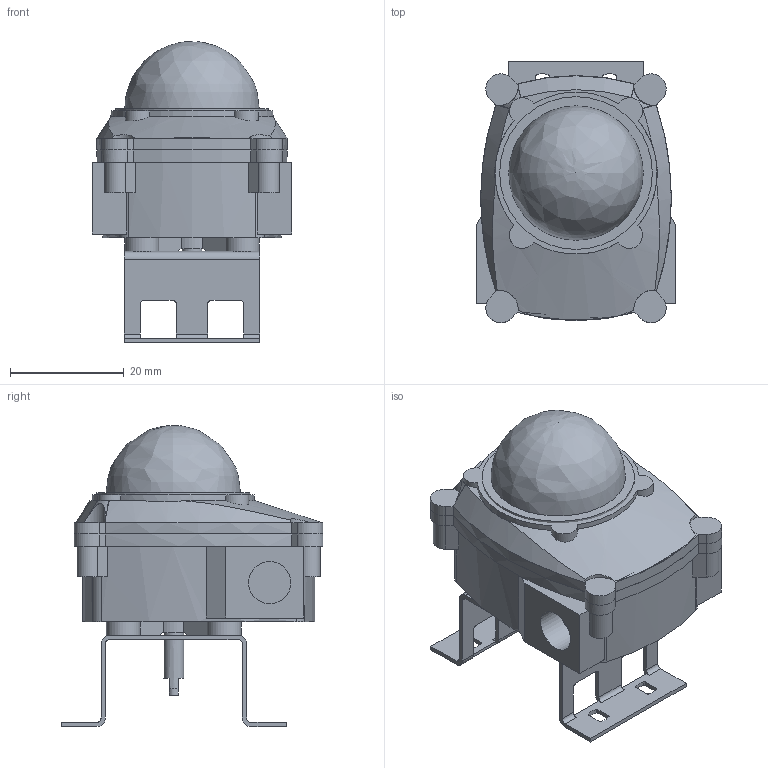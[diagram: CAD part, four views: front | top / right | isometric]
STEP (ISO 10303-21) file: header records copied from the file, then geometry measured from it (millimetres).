
FILE_DESCRIPTION((' '),'2;1');
FILE_NAME('N:\Technical Support\Private\Jomar Valve CAD\Actuation\ASM\ASM-200FusionCopy.stp','2017-06-13T16:39:24',(' '),(' '),' ','ACIS',' ');
FILE_SCHEMA(('CONFIG_CONTROL_DESIGN'));
Length unit declared in the file: centimetre
Products named in the file (7): N:\Technical Support\Private\Jomar Valve CAD\Actuation\ASM\ASM-200FusionCopy.stp; Body1; Body2; Body3; Body4; Body5; Body6
Assembly tree (6 placements, depth 2):
  N:\Technical Support\Private\Jomar Valve CAD\Actuation\ASM\ASM-200FusionCopy.stp
    Body1
    Body2
    Body3
    Body4
    Body5
    Body6
Bounding box: 35.1 x 45.98 x 52.85 mm (x, y, z)
Volume: 31773.6 mm3; surface area: 14016.6 mm2
Topology: 6 solids, 6 shells, 245 faces, 701 edges, 466 vertices
Faces by surface type: bspline 168, plane 40, cylinder 37
Full cylindrical faces by diameter (mm): 1.95 x2, 7.4 x1
Entity records: 10232 total; most frequent: CARTESIAN_POINT 3272, ORIENTED_EDGE 1364, DIRECTION 1106, EDGE_CURVE 682, VERTEX_POINT 462, VECTOR 380, LINE 380, AXIS2_PLACEMENT_3D 363
